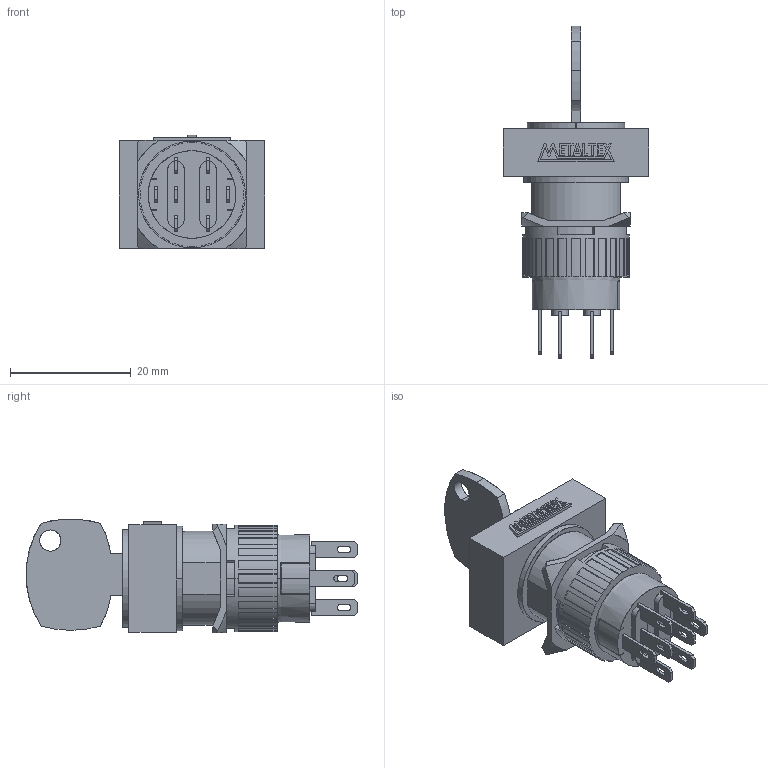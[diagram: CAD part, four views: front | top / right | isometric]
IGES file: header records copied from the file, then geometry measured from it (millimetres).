
Start section: SolidWorks IGES file using analytic representation for surfaces
Global section: file name: D:\X - Arquivos\PROEX\Empresas\P11 - METALTEX\01 - Produtos\IGES\Terceira remessa\Etapa 3\P16-K.IGS; native system: SolidWorks 2012; preprocessor: SolidWorks 2012; author: Usuario; date: 180215.132513; units: millimetre
Bounding box: 24 x 54.9 x 18.82 mm (x, y, z)
Surface area: 4763.6 mm2 (no closed solid volume)
Topology: 0 solids, 0 shells, 405 faces, 2978 edges, 2978 vertices
Faces by surface type: bspline 308, revolution 97
